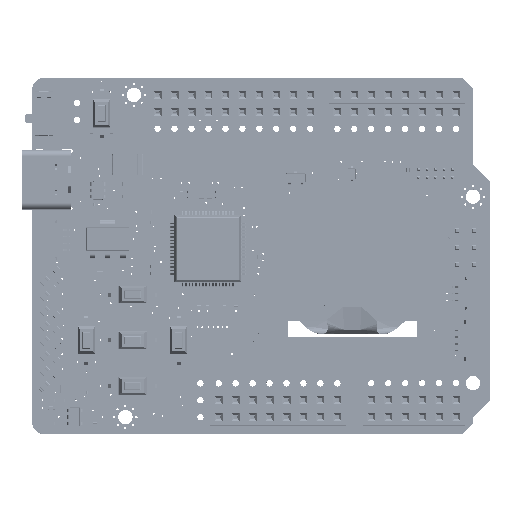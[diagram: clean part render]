
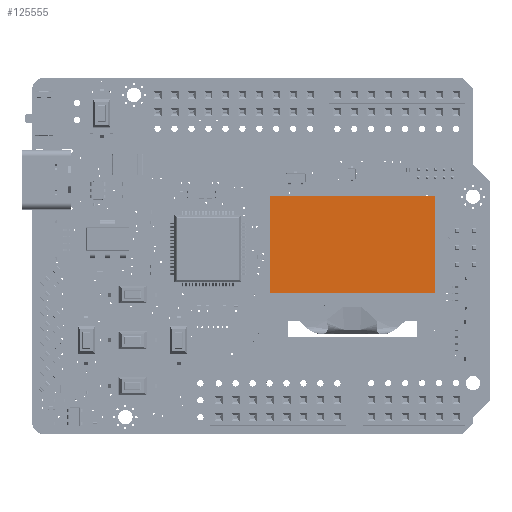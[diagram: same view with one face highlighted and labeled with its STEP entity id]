
A CAD part, top view. The second image highlights one B-rep face of the part: STEP entity #125555.
In plain terms, the highlighted planar face has unit normal (0, 0, 1).
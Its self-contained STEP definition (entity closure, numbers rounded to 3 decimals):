
#125449 = VERTEX_POINT('',#125450);
#125450 = CARTESIAN_POINT('',(12.35,-5.9,3.3));
#125458 = EDGE_CURVE('',#125459,#125449,#125461,.T.);
#125459 = VERTEX_POINT('',#125460);
#125460 = CARTESIAN_POINT('',(-12.35,-5.9,3.3));
#125461 = LINE('',#125462,#125463);
#125462 = CARTESIAN_POINT('',(-6.175,-5.9,3.3));
#125463 = VECTOR('',#125464,1.);
#125464 = DIRECTION('',(1.,0.,0.));
#125521 = EDGE_CURVE('',#125522,#125459,#125524,.T.);
#125522 = VERTEX_POINT('',#125523);
#125523 = CARTESIAN_POINT('',(-12.35,8.6,3.3));
#125524 = LINE('',#125525,#125526);
#125525 = CARTESIAN_POINT('',(-12.35,-8.4,3.3));
#125526 = VECTOR('',#125527,1.);
#125527 = DIRECTION('',(0.,-1.,0.));
#125555 = ADVANCED_FACE('',(#125556),#125574,.T.);
#125556 = FACE_BOUND('',#125557,.T.);
#125557 = EDGE_LOOP('',(#125558,#125559,#125567,#125573));
#125558 = ORIENTED_EDGE('',*,*,#125458,.T.);
#125559 = ORIENTED_EDGE('',*,*,#125560,.T.);
#125560 = EDGE_CURVE('',#125449,#125561,#125563,.T.);
#125561 = VERTEX_POINT('',#125562);
#125562 = CARTESIAN_POINT('',(12.35,8.6,3.3));
#125563 = LINE('',#125564,#125565);
#125564 = CARTESIAN_POINT('',(12.35,8.6,3.3));
#125565 = VECTOR('',#125566,1.);
#125566 = DIRECTION('',(0.,1.,0.));
#125567 = ORIENTED_EDGE('',*,*,#125568,.T.);
#125568 = EDGE_CURVE('',#125561,#125522,#125569,.T.);
#125569 = LINE('',#125570,#125571);
#125570 = CARTESIAN_POINT('',(-12.35,8.6,3.3));
#125571 = VECTOR('',#125572,1.);
#125572 = DIRECTION('',(-1.,0.,0.));
#125573 = ORIENTED_EDGE('',*,*,#125521,.T.);
#125574 = PLANE('',#125575);
#125575 = AXIS2_PLACEMENT_3D('',#125576,#125577,#125578);
#125576 = CARTESIAN_POINT('',(0.,0.1,3.3));
#125577 = DIRECTION('',(0.,0.,1.));
#125578 = DIRECTION('',(1.,0.,0.));
